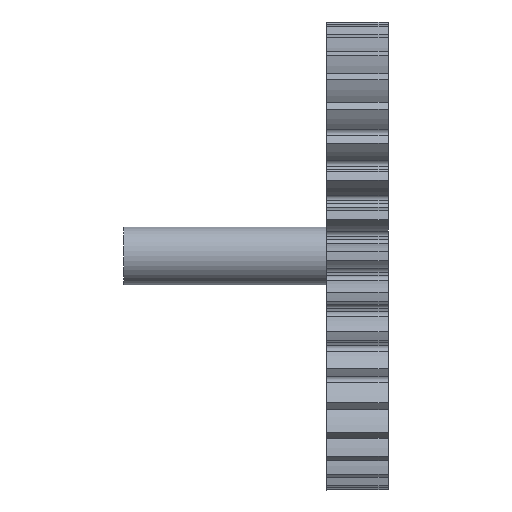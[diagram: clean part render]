
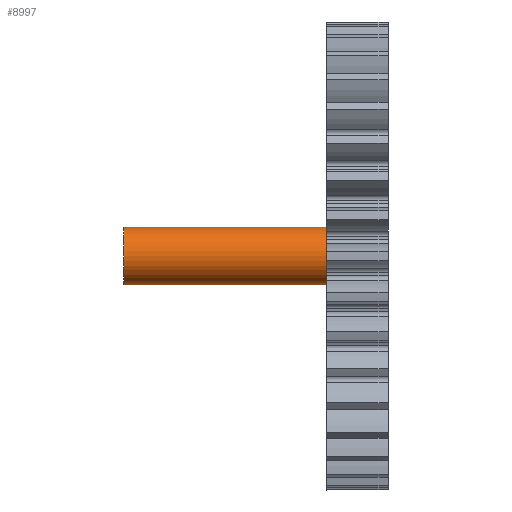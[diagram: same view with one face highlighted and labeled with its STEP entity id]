
A CAD part, front view. The second image highlights one B-rep face of the part: STEP entity #8997.
In plain terms, the highlighted cylindrical face has radius 2.35 mm (diameter 4.7 mm), a partial arc.
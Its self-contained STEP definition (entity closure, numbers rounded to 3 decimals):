
#94 = EDGE_CURVE ( 'NONE', #904, #3918, #290, .T. ) ;
#167 = VECTOR ( 'NONE', #2307, 1000. ) ;
#290 = CIRCLE ( 'NONE', #5768, 2.35 ) ;
#524 = LINE ( 'NONE', #10604, #167 ) ;
#542 = CARTESIAN_POINT ( 'NONE',  ( -17.95, 0., 0. ) ) ;
#867 = DIRECTION ( 'NONE',  ( -1., 0., 0. ) ) ;
#904 = VERTEX_POINT ( 'NONE', #8704 ) ;
#1244 = VERTEX_POINT ( 'NONE', #2088 ) ;
#1922 = CARTESIAN_POINT ( 'NONE',  ( -24.597, 0., 2.35 ) ) ;
#2088 = CARTESIAN_POINT ( 'NONE',  ( -1.5, 0., 2.35 ) ) ;
#2117 = AXIS2_PLACEMENT_3D ( 'NONE', #2776, #2829, #10356 ) ;
#2307 = DIRECTION ( 'NONE',  ( 1., 0., 0. ) ) ;
#2371 = CARTESIAN_POINT ( 'NONE',  ( -24.597, 0., 0. ) ) ;
#2424 = CYLINDRICAL_SURFACE ( 'NONE', #7719, 2.35 ) ;
#2776 = CARTESIAN_POINT ( 'NONE',  ( -1.5, 0., 0. ) ) ;
#2787 = CARTESIAN_POINT ( 'NONE',  ( -1.5, 0., -2.35 ) ) ;
#2829 = DIRECTION ( 'NONE',  ( -1., 0., 0. ) ) ;
#3696 = DIRECTION ( 'NONE',  ( 1., 0., 0. ) ) ;
#3918 = VERTEX_POINT ( 'NONE', #4009 ) ;
#4009 = CARTESIAN_POINT ( 'NONE',  ( -17.95, 0., 2.35 ) ) ;
#4132 = DIRECTION ( 'NONE',  ( 0., 0., -1. ) ) ;
#4335 = ORIENTED_EDGE ( 'NONE', *, *, #94, .F. ) ;
#4629 = VERTEX_POINT ( 'NONE', #2787 ) ;
#4864 = ORIENTED_EDGE ( 'NONE', *, *, #10160, .T. ) ;
#5571 = VECTOR ( 'NONE', #3696, 1000. ) ;
#5738 = EDGE_LOOP ( 'NONE', ( #6057, #4335, #4864, #9661 ) ) ;
#5768 = AXIS2_PLACEMENT_3D ( 'NONE', #542, #867, #10123 ) ;
#6054 = EDGE_CURVE ( 'NONE', #4629, #1244, #8618, .T. ) ;
#6057 = ORIENTED_EDGE ( 'NONE', *, *, #7326, .F. ) ;
#6176 = LINE ( 'NONE', #1922, #5571 ) ;
#6559 = FACE_OUTER_BOUND ( 'NONE', #5738, .T. ) ;
#7326 = EDGE_CURVE ( 'NONE', #3918, #1244, #6176, .T. ) ;
#7429 = DIRECTION ( 'NONE',  ( 1., 0., 0. ) ) ;
#7719 = AXIS2_PLACEMENT_3D ( 'NONE', #2371, #7429, #4132 ) ;
#8618 = CIRCLE ( 'NONE', #2117, 2.35 ) ;
#8704 = CARTESIAN_POINT ( 'NONE',  ( -17.95, 0., -2.35 ) ) ;
#8997 = ADVANCED_FACE ( 'NONE', ( #6559 ), #2424, .T. ) ;
#9661 = ORIENTED_EDGE ( 'NONE', *, *, #6054, .T. ) ;
#10123 = DIRECTION ( 'NONE',  ( 0., 0., 1. ) ) ;
#10160 = EDGE_CURVE ( 'NONE', #904, #4629, #524, .T. ) ;
#10356 = DIRECTION ( 'NONE',  ( 0., 0., 1. ) ) ;
#10604 = CARTESIAN_POINT ( 'NONE',  ( -24.597, 0., -2.35 ) ) ;
